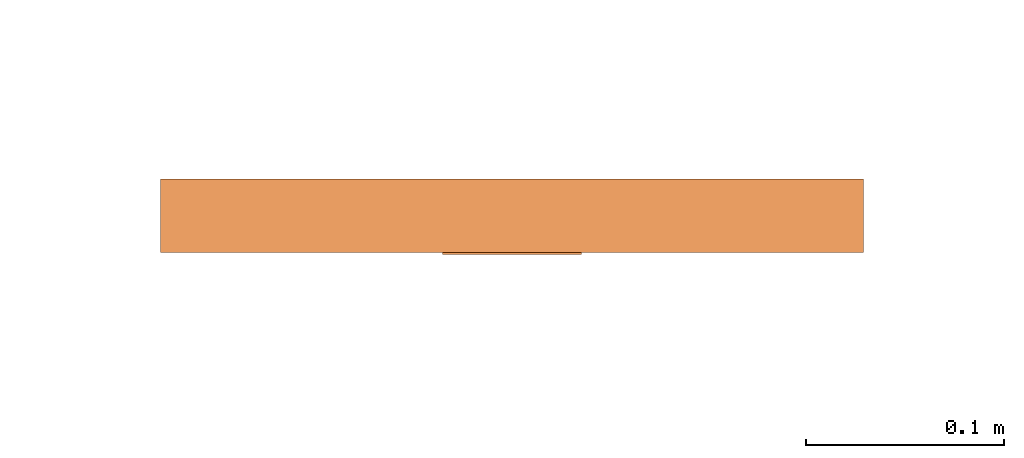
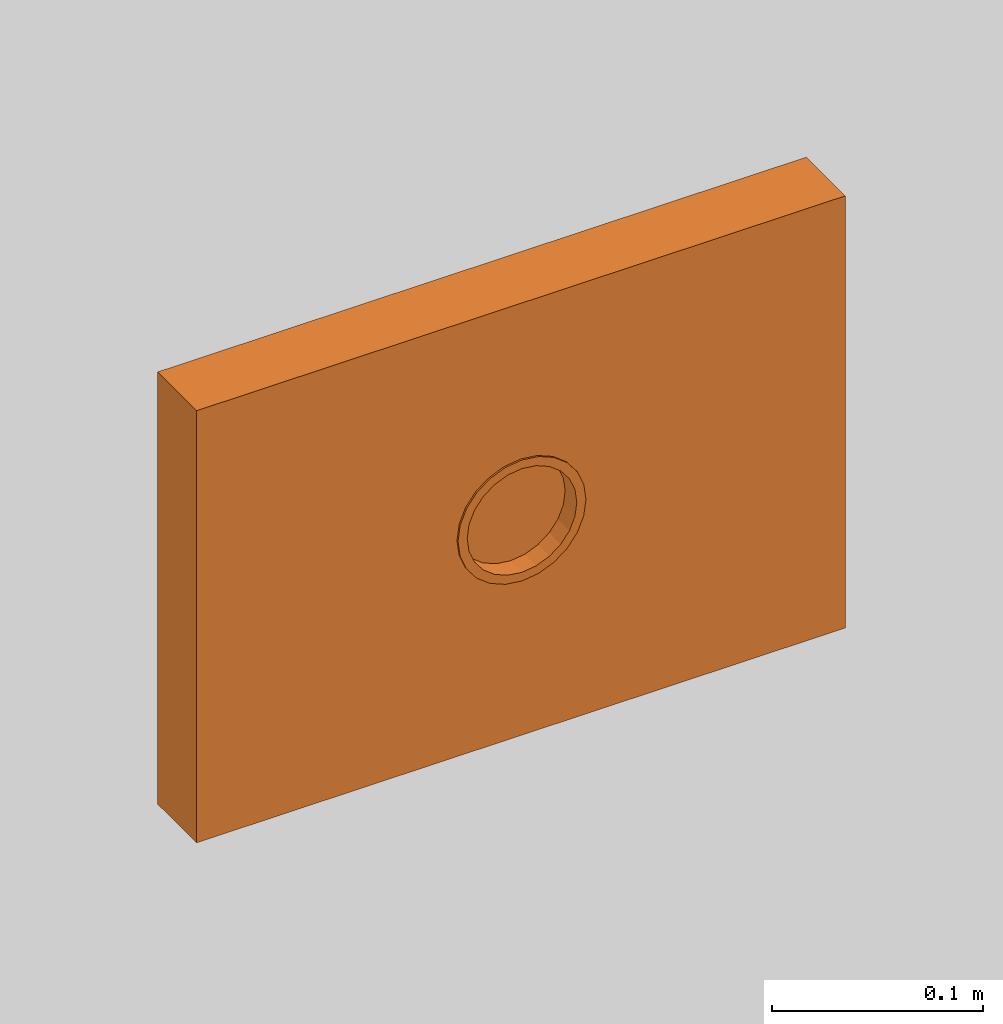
# One storey, part 88 of 197: 1 proxy.
"""IFC2X3 building model written with IfcOpenShell, lengths in metres."""

from ifc_helpers import new_model, entity, si_unit, converted_unit, direction, frame, origin, place, context, subcontext, project, spatial, faceted_brep, source, transform, mapped, material, material_list, type_object, type_shapes, element, save


model = new_model("IFC2X3")

# Units and contexts
model_context = context("Model", 3, precision=1e-05, world=origin(), true_north=direction((6.123031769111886e-17, 1.0)))
body_context = subcontext(model_context, "Body", "Model", "MODEL_VIEW")
ifc_project = project(units=[si_unit("LENGTHUNIT", "METRE"), converted_unit("PLANEANGLEUNIT", "DEGREE", entity("IfcPlaneAngleMeasure", 0.017453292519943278), si_unit("PLANEANGLEUNIT", "RADIAN"), dimensions=[0, 0, 0, 0, 0, 0, 0]), si_unit("AREAUNIT", "SQUARE_METRE")], contexts=[model_context])

# Site, building, storey
site_placement = place(None, origin())
site = spatial("IfcSite", under=ifc_project, at=site_placement, Name="Default", CompositionType="ELEMENT")
building_placement = place(site_placement, origin())
building = spatial("IfcBuilding", under=site, at=building_placement, CompositionType="ELEMENT")
storey_placement = place(building_placement, origin())
storey = spatial("IfcBuildingStorey", under=building, at=storey_placement, Name="Niveau 0", CompositionType="ELEMENT", Elevation=0.0)

# Proxy
ifc_material_1 = material(Name="BETCE-ANNEAU-CHROME")
ifc_material_2 = material(Name="BETCE-TABLEAU-BLANC")
ifc_material_list = material_list([ifc_material_1, ifc_material_2])
building_element_proxy_type = type_object("IfcBuildingElementProxyType", Name="Coffret mural 18 modules avec porte:18M-1R", PredefinedType="NOTDEFINED", material=ifc_material_list)
shared_shape = source(origin(), body_context, "Body", "Brep", [
    faceted_brep([(0.015000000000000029, -0.14149999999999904, -0.900980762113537), (0.017499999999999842, -0.14149999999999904, -0.9053108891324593), (0.021124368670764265, -0.14149999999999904, -0.9025298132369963), (0.011382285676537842, -0.14149999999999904, -0.9024792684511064), (0.024748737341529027, -0.14149999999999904, -0.8997487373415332), (0.018106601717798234, -0.14149999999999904, -0.8985969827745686), (0.007764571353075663, -0.14149999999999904, -0.9039777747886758), (0.01327933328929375, -0.14149999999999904, -0.9070591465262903), (0.009058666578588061, -0.14149999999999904, -0.9088074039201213), (0.0038822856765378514, -0.14149999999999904, -0.9044888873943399), (0.0, -0.14149999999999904, -0.9050000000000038), (0.004529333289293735, -0.14149999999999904, -0.9094037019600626), (0.0, -0.14149999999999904, -0.9100000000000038), (-0.0038822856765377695, -0.14149999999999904, -0.9044888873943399), (-0.007764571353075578, -0.14149999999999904, -0.9039777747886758), (-0.00452933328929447, -0.14149999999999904, -0.9094037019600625), (-0.009058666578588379, -0.14149999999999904, -0.908807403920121), (-0.011382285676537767, -0.14149999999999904, -0.9024792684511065), (-0.014999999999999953, -0.14149999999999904, -0.900980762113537), (-0.013279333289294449, -0.14149999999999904, -0.90705914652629), (-0.01750000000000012, -0.14149999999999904, -0.9053108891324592), (-0.018106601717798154, -0.14149999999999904, -0.8985969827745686), (-0.021213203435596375, -0.14149999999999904, -0.8962132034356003), (-0.02112436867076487, -0.14149999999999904, -0.9025298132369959), (-0.024748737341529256, -0.14149999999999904, -0.8997487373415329), (-0.023596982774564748, -0.14149999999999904, -0.8931066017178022), (-0.02598076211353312, -0.14149999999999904, -0.8900000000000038), (-0.027529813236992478, -0.14149999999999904, -0.8961243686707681), (-0.030310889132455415, -0.14149999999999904, -0.8925000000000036), (-0.02747926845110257, -0.14149999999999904, -0.8863822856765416), (-0.028977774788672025, -0.14149999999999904, -0.8827645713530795), (-0.03205914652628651, -0.14149999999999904, -0.8882793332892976), (-0.033807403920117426, -0.14149999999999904, -0.8840586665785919), (-0.029488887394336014, -0.14149999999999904, -0.8788822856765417), (-0.029999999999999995, -0.14149999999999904, -0.8750000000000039), (-0.03415980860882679, -0.14149999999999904, -0.8813818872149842), (-0.035, -0.14149999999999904, -0.8750000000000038), (-0.029611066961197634, -0.14149999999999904, -0.8720457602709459), (-0.028977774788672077, -0.14149999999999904, -0.8672354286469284), (-0.03440370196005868, -0.14149999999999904, -0.8704706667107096), (-0.03380740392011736, -0.14149999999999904, -0.8659413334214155), (-0.02747926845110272, -0.14149999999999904, -0.8636177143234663), (-0.025980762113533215, -0.14149999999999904, -0.8600000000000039), (-0.03205914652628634, -0.14149999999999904, -0.8617206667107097), (-0.030310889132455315, -0.14149999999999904, -0.8575000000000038), (-0.027529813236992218, -0.14149999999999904, -0.8538756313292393), (-0.02474873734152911, -0.14149999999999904, -0.8502512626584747), (-0.023596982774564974, -0.14149999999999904, -0.8568933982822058), (-0.021213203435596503, -0.14149999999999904, -0.8537867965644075), (-0.02112436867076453, -0.14149999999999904, -0.8474701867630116), (-0.017499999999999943, -0.14149999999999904, -0.8446891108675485), (-0.018106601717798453, -0.14149999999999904, -0.8514030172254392), (-0.015000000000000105, -0.14149999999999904, -0.8490192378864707), (-0.013279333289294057, -0.14149999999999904, -0.8429408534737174), (-0.009058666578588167, -0.14149999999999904, -0.8411925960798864), (-0.011382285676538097, -0.14149999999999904, -0.8475207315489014), (-0.007764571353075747, -0.14149999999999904, -0.8460222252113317), (-0.0045293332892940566, -0.14149999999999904, -0.8405962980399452), (0.0, -0.14149999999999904, -0.8400000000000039), (-0.003882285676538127, -0.14149999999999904, -0.8455111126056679), (0.0, -0.14149999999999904, -0.8450000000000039), (0.00452933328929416, -0.14149999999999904, -0.8405962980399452), (0.009058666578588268, -0.14149999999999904, -0.8411925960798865), (0.0038822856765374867, -0.14149999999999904, -0.8455111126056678), (0.007764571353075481, -0.14149999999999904, -0.8460222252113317), (0.013279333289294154, -0.14149999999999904, -0.8429408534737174), (0.017500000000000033, -0.14149999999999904, -0.8446891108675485), (0.011382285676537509, -0.14149999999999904, -0.8475207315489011), (0.01499999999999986, -0.14149999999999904, -0.8490192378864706), (0.02112436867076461, -0.14149999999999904, -0.8474701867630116), (0.024748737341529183, -0.14149999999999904, -0.8502512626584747), (0.01810660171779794, -0.14149999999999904, -0.8514030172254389), (0.02121320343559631, -0.14149999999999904, -0.8537867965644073), (0.027529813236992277, -0.14149999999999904, -0.8538756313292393), (0.030310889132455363, -0.14149999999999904, -0.8575000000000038), (0.02359698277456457, -0.14149999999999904, -0.8568933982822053), (0.025980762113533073, -0.14149999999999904, -0.8600000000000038), (0.03205914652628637, -0.14149999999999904, -0.8617206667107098), (0.03380740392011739, -0.14149999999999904, -0.8659413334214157), (0.02747926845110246, -0.14149999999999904, -0.8636177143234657), (0.028977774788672, -0.14149999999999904, -0.8672354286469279), (0.03415980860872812, -0.14149999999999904, -0.8686181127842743), (0.035, -0.14149999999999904, -0.8750000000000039), (0.029488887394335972, -0.14149999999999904, -0.8711177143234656), (0.03, -0.14149999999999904, -0.8750000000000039), (0.03440370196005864, -0.14149999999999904, -0.8795293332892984), (0.03380740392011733, -0.14149999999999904, -0.8840586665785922), (0.02961106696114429, -0.14149999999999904, -0.8779542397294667), (0.028977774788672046, -0.14149999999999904, -0.8827645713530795), (0.03205914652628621, -0.14149999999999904, -0.8882793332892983), (0.03031088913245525, -0.14149999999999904, -0.892500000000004), (0.027479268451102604, -0.14149999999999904, -0.8863822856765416), (0.025980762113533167, -0.14149999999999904, -0.8900000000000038), (0.023596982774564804, -0.14149999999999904, -0.893106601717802), (0.021213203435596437, -0.14149999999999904, -0.8962132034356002), (0.027529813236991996, -0.14149999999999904, -0.8961243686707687), (0.01499999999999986, -0.14049999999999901, -0.8490192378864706), (0.017500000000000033, -0.14049999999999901, -0.8446891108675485), (0.02112436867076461, -0.14049999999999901, -0.8474701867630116), (0.011382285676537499, -0.14049999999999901, -0.8475207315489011), (0.024748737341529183, -0.14049999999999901, -0.8502512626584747), (0.018106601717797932, -0.14049999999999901, -0.8514030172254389), (0.007764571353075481, -0.14049999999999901, -0.8460222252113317), (0.013279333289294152, -0.14049999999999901, -0.8429408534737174), (0.009058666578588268, -0.14049999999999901, -0.8411925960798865), (0.0038822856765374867, -0.14049999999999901, -0.8455111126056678), (0.0, -0.14049999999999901, -0.8450000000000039), (0.004529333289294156, -0.14049999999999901, -0.8405962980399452), (0.0, -0.14049999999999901, -0.8400000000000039), (-0.0038822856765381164, -0.14049999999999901, -0.8455111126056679), (-0.007764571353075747, -0.14049999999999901, -0.8460222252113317), (-0.004529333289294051, -0.14049999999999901, -0.8405962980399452), (-0.009058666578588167, -0.14049999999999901, -0.8411925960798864), (-0.011382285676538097, -0.14049999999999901, -0.8475207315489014), (-0.015000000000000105, -0.14049999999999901, -0.8490192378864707), (-0.013279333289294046, -0.14049999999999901, -0.8429408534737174), (-0.017499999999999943, -0.14049999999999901, -0.8446891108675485), (-0.018106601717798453, -0.14049999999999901, -0.8514030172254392), (-0.021213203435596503, -0.14049999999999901, -0.8537867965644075), (-0.02112436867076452, -0.14049999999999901, -0.8474701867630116), (-0.02474873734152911, -0.14049999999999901, -0.8502512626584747), (-0.023596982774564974, -0.14049999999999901, -0.8568933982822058), (-0.025980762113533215, -0.14049999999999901, -0.8600000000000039), (-0.027529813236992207, -0.14049999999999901, -0.8538756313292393), (-0.030310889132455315, -0.14049999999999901, -0.8575000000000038), (-0.027479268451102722, -0.14049999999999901, -0.8636177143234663), (-0.028977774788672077, -0.14049999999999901, -0.8672354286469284), (-0.03205914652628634, -0.14049999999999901, -0.8617206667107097), (-0.03380740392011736, -0.14049999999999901, -0.8659413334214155), (-0.029488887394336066, -0.14049999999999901, -0.8711177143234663), (-0.029999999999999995, -0.14049999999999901, -0.8750000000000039), (-0.03440370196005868, -0.14049999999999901, -0.8704706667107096), (-0.035, -0.14049999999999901, -0.8750000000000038), (-0.029611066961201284, -0.14049999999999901, -0.8779542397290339), (-0.028977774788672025, -0.14049999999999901, -0.8827645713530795), (-0.03440370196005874, -0.14049999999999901, -0.8795293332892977), (-0.033807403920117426, -0.14049999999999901, -0.8840586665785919), (-0.02747926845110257, -0.14049999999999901, -0.8863822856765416), (-0.02598076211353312, -0.14049999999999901, -0.8900000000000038), (-0.03205914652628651, -0.14049999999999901, -0.8882793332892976), (-0.030310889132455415, -0.14049999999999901, -0.8925000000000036), (-0.02752981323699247, -0.14049999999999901, -0.8961243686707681), (-0.024748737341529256, -0.14049999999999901, -0.8997487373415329), (-0.023596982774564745, -0.14049999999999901, -0.8931066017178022), (-0.021213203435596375, -0.14049999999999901, -0.8962132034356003), (-0.021124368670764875, -0.14049999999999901, -0.9025298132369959), (-0.01750000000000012, -0.14049999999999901, -0.9053108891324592), (-0.018106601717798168, -0.14049999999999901, -0.8985969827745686), (-0.014999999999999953, -0.14049999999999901, -0.900980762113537), (-0.013279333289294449, -0.14049999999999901, -0.90705914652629), (-0.009058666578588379, -0.14049999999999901, -0.908807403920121), (-0.011382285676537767, -0.14049999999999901, -0.9024792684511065), (-0.007764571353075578, -0.14049999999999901, -0.9039777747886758), (-0.00452933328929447, -0.14049999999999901, -0.9094037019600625), (0.0, -0.14049999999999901, -0.9100000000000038), (-0.003882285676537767, -0.14049999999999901, -0.9044888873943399), (0.0, -0.14049999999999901, -0.9050000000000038), (0.004529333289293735, -0.14049999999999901, -0.9094037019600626), (0.009058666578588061, -0.14049999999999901, -0.9088074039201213), (0.003882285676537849, -0.14049999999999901, -0.9044888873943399), (0.007764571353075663, -0.14049999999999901, -0.9039777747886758), (0.01327933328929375, -0.14049999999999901, -0.9070591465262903), (0.017499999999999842, -0.14049999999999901, -0.9053108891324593), (0.011382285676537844, -0.14049999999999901, -0.9024792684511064), (0.015000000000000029, -0.14049999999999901, -0.900980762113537), (0.021124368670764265, -0.14049999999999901, -0.9025298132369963), (0.024748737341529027, -0.14049999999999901, -0.8997487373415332), (0.018106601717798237, -0.14049999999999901, -0.8985969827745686), (0.021213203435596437, -0.14049999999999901, -0.8962132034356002), (0.027529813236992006, -0.14049999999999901, -0.8961243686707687), (0.03031088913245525, -0.14049999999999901, -0.892500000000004), (0.023596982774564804, -0.14049999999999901, -0.893106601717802), (0.025980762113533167, -0.14049999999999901, -0.8900000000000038), (0.03205914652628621, -0.14049999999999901, -0.8882793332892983), (0.03380740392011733, -0.14049999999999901, -0.8840586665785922), (0.027479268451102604, -0.14049999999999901, -0.8863822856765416), (0.028977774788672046, -0.14049999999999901, -0.8827645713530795), (0.03440370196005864, -0.14049999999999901, -0.8795293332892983), (0.035, -0.14049999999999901, -0.875000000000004), (0.029488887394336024, -0.14049999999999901, -0.8788822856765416), (0.03, -0.14049999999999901, -0.8750000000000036), (0.034403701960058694, -0.14049999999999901, -0.8704706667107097), (0.03380740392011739, -0.14049999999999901, -0.8659413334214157), (0.02961106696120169, -0.14049999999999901, -0.872045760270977), (0.028977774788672, -0.14049999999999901, -0.8672354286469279), (0.03205914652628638, -0.14049999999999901, -0.8617206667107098), (0.030310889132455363, -0.14049999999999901, -0.8575000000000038), (0.02747926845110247, -0.14049999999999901, -0.8636177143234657), (0.025980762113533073, -0.14049999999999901, -0.8600000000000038), (0.023596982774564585, -0.14049999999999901, -0.8568933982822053), (0.02121320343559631, -0.14049999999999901, -0.8537867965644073), (0.027529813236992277, -0.14049999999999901, -0.8538756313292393)], [[[0, 1, 2]], [[1, 0, 3]], [[0, 2, 4]], [[4, 5, 0]], [[1, 3, 6]], [[6, 7, 1]], [[6, 8, 7]], [[8, 6, 9]], [[8, 9, 10]], [[10, 11, 8]], [[10, 12, 11]], [[12, 10, 13]], [[12, 13, 14]], [[14, 15, 12]], [[14, 16, 15]], [[16, 14, 17]], [[16, 17, 18]], [[18, 19, 16]], [[18, 20, 19]], [[20, 18, 21]], [[20, 21, 22]], [[22, 23, 20]], [[22, 24, 23]], [[24, 22, 25]], [[24, 25, 26]], [[26, 27, 24]], [[26, 28, 27]], [[28, 26, 29]], [[28, 29, 30]], [[30, 31, 28]], [[30, 32, 31]], [[32, 30, 33]], [[32, 33, 34]], [[34, 35, 32]], [[34, 36, 35]], [[36, 34, 37]], [[36, 37, 38]], [[38, 39, 36]], [[38, 40, 39]], [[40, 38, 41]], [[40, 41, 42]], [[42, 43, 40]], [[42, 44, 43]], [[42, 45, 44]], [[42, 46, 45]], [[46, 42, 47]], [[46, 47, 48]], [[48, 49, 46]], [[48, 50, 49]], [[50, 48, 51]], [[50, 51, 52]], [[52, 53, 50]], [[52, 54, 53]], [[54, 52, 55]], [[54, 55, 56]], [[56, 57, 54]], [[56, 58, 57]], [[58, 56, 59]], [[58, 59, 60]], [[60, 61, 58]], [[60, 62, 61]], [[62, 60, 63]], [[62, 63, 64]], [[64, 65, 62]], [[64, 66, 65]], [[66, 64, 67]], [[66, 67, 68]], [[68, 69, 66]], [[68, 70, 69]], [[70, 68, 71]], [[70, 71, 72]], [[72, 73, 70]], [[72, 74, 73]], [[74, 72, 75]], [[74, 75, 76]], [[76, 77, 74]], [[76, 78, 77]], [[78, 76, 79]], [[78, 79, 80]], [[80, 81, 78]], [[80, 82, 81]], [[82, 80, 83]], [[82, 83, 84]], [[84, 85, 82]], [[84, 86, 85]], [[86, 84, 87]], [[86, 87, 88]], [[88, 89, 86]], [[88, 90, 89]], [[90, 88, 91]], [[90, 91, 92]], [[90, 92, 93]], [[90, 93, 94]], [[4, 94, 5]], [[94, 4, 95]], [[94, 95, 90]], [[96, 97, 98]], [[97, 96, 99]], [[96, 98, 100]], [[100, 101, 96]], [[97, 99, 102]], [[102, 103, 97]], [[102, 104, 103]], [[104, 102, 105]], [[104, 105, 106]], [[106, 107, 104]], [[106, 108, 107]], [[108, 106, 109]], [[108, 109, 110]], [[110, 111, 108]], [[110, 112, 111]], [[112, 110, 113]], [[112, 113, 114]], [[114, 115, 112]], [[114, 116, 115]], [[116, 114, 117]], [[116, 117, 118]], [[118, 119, 116]], [[118, 120, 119]], [[120, 118, 121]], [[120, 121, 122]], [[122, 123, 120]], [[122, 124, 123]], [[124, 122, 125]], [[124, 125, 126]], [[126, 127, 124]], [[126, 128, 127]], [[128, 126, 129]], [[128, 129, 130]], [[130, 131, 128]], [[130, 132, 131]], [[132, 130, 133]], [[132, 133, 134]], [[134, 135, 132]], [[134, 136, 135]], [[136, 134, 137]], [[136, 137, 138]], [[138, 139, 136]], [[138, 140, 139]], [[138, 141, 140]], [[138, 142, 141]], [[142, 138, 143]], [[142, 143, 144]], [[144, 145, 142]], [[144, 146, 145]], [[146, 144, 147]], [[146, 147, 148]], [[148, 149, 146]], [[148, 150, 149]], [[150, 148, 151]], [[150, 151, 152]], [[152, 153, 150]], [[152, 154, 153]], [[154, 152, 155]], [[154, 155, 156]], [[156, 157, 154]], [[156, 158, 157]], [[158, 156, 159]], [[158, 159, 160]], [[160, 161, 158]], [[160, 162, 161]], [[162, 160, 163]], [[162, 163, 164]], [[164, 165, 162]], [[164, 166, 165]], [[166, 164, 167]], [[166, 167, 168]], [[168, 169, 166]], [[168, 170, 169]], [[170, 168, 171]], [[170, 171, 172]], [[172, 173, 170]], [[172, 174, 173]], [[174, 172, 175]], [[174, 175, 176]], [[176, 177, 174]], [[176, 178, 177]], [[178, 176, 179]], [[178, 179, 180]], [[180, 181, 178]], [[180, 182, 181]], [[182, 180, 183]], [[182, 183, 184]], [[184, 185, 182]], [[184, 186, 185]], [[186, 184, 187]], [[186, 187, 188]], [[186, 188, 189]], [[186, 189, 190]], [[100, 190, 101]], [[190, 100, 191]], [[190, 191, 186]], [[136, 32, 35, 36, 132, 135]], [[85, 86, 174, 177, 178, 82]], [[136, 139, 140, 28, 31, 32]], [[142, 145, 146, 20, 23, 24]], [[173, 174, 86, 89, 90, 170]], [[140, 141, 142, 24, 27, 28]], [[146, 149, 150, 16, 19, 20]], [[12, 15, 16, 150, 153, 154]], [[154, 157, 158, 8, 11, 12]], [[2, 1, 162, 165, 166, 4]], [[169, 170, 90, 95, 4, 166]], [[158, 161, 162, 1, 7, 8]], [[182, 78, 81, 82, 178, 181]], [[39, 40, 128, 131, 132, 36]], [[182, 185, 186, 74, 77, 78]], [[100, 98, 97, 66, 69, 70]], [[127, 128, 40, 43, 44, 124]], [[186, 191, 100, 70, 73, 74]], [[97, 103, 104, 62, 65, 66]], [[58, 61, 62, 104, 107, 108]], [[108, 111, 112, 54, 57, 58]], [[49, 50, 116, 119, 120, 46]], [[123, 124, 44, 45, 46, 120]], [[112, 115, 116, 50, 53, 54]], [[129, 126, 38, 37, 34, 130]], [[125, 122, 42, 41, 38, 126]], [[51, 48, 118, 117, 114, 52]], [[63, 60, 106, 105, 102, 64]], [[183, 180, 84, 83, 80, 184]], [[48, 47, 42, 122, 121, 118]], [[55, 52, 114, 113, 110, 56]], [[59, 56, 110, 109, 106, 60]], [[99, 96, 68, 67, 64, 102]], [[189, 188, 76, 75, 72, 190]], [[187, 184, 80, 79, 76, 188]], [[101, 190, 72, 71, 68, 96]], [[179, 176, 88, 87, 84, 180]], [[175, 172, 92, 91, 88, 176]], [[5, 94, 168, 167, 164, 0]], [[13, 10, 156, 155, 152, 14]], [[133, 130, 34, 33, 30, 134]], [[94, 93, 92, 172, 171, 168]], [[3, 0, 164, 163, 160, 6]], [[9, 6, 160, 159, 156, 10]], [[151, 148, 18, 17, 14, 152]], [[143, 138, 26, 25, 22, 144]], [[137, 134, 30, 29, 26, 138]], [[147, 144, 22, 21, 18, 148]]]),
    faceted_brep([(0.17750000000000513, -0.14049999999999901, -0.7500000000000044), (0.02598076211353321, -0.14049999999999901, -0.8600000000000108), (0.028977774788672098, -0.14049999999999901, -0.8672354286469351), (0.021213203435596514, -0.14049999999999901, -0.8537867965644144), (0.030000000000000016, -0.14049999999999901, -0.8750000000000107), (0.015000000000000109, -0.14049999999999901, -0.8490192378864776), (0.007764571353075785, -0.14049999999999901, -0.8460222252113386), (0.0, -0.14049999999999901, -0.8450000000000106), (-0.17749999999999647, -0.14049999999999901, -0.7500000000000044), (0.17750000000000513, -0.14049999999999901, -1.0), (-0.007764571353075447, -0.14049999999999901, -0.8460222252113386), (-0.014999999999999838, -0.14049999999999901, -0.8490192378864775), (-0.021213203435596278, -0.14049999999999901, -0.8537867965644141), (-0.02598076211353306, -0.14049999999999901, -0.8600000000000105), (-0.028977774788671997, -0.14049999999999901, -0.8672354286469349), (-0.03, -0.14049999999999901, -0.8750000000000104), (-0.17749999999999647, -0.14049999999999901, -1.0), (-0.028977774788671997, -0.14049999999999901, -0.8827645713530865), (-0.025980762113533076, -0.14049999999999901, -0.8900000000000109), (-0.021213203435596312, -0.14049999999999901, -0.8962132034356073), (-0.014999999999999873, -0.14049999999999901, -0.9009807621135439), (-0.007764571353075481, -0.14049999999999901, -0.9039777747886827), (0.0, -0.14049999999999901, -0.9050000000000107), (0.028977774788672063, -0.14049999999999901, -0.8827645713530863), (0.02598076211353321, -0.14049999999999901, -0.8900000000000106), (0.021213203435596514, -0.14049999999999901, -0.896213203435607), (0.015000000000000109, -0.14049999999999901, -0.9009807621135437), (0.007764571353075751, -0.14049999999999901, -0.9039777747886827), (-0.17749999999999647, -0.10349999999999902, -1.0), (-0.17749999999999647, -0.10349999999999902, -0.7500000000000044), (0.17750000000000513, -0.10349999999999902, -0.7500000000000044), (0.17750000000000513, -0.10349999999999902, -1.0), (-0.014999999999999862, -0.1304999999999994, -0.9009807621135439), (-0.007764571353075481, -0.1304999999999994, -0.9039777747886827), (0.0, -0.1304999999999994, -0.9050000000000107), (0.007764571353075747, -0.1304999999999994, -0.9039777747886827), (0.015000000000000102, -0.1304999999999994, -0.9009807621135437), (0.021213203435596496, -0.1304999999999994, -0.896213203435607), (0.02598076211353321, -0.1304999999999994, -0.8900000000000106), (0.02897777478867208, -0.1304999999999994, -0.8827645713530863), (0.03, -0.1304999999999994, -0.8750000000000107), (0.02897777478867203, -0.1304999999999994, -0.867235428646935), (0.025980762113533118, -0.1304999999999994, -0.8600000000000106), (0.02121320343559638, -0.1304999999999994, -0.8537867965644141), (0.01499999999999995, -0.1304999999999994, -0.8490192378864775), (0.007764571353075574, -0.1304999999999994, -0.8460222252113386), (0.0, -0.1304999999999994, -0.8450000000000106), (-0.007764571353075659, -0.1304999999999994, -0.8460222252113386), (-0.015000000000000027, -0.1304999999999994, -0.8490192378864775), (-0.021213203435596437, -0.1304999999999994, -0.8537867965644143), (-0.025980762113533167, -0.1304999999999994, -0.8600000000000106), (-0.028977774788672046, -0.1304999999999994, -0.867235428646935), (-0.03, -0.1304999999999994, -0.8750000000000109), (-0.028977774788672, -0.1304999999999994, -0.8827645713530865), (-0.025980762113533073, -0.1304999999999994, -0.8900000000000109), (-0.02121320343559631, -0.1304999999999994, -0.8962132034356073)], [[[0, 1, 2]], [[1, 0, 3]], [[0, 2, 4]], [[5, 3, 0]], [[6, 5, 0]], [[7, 6, 0]], [[0, 8, 7]], [[4, 9, 0]], [[10, 7, 8]], [[11, 10, 8]], [[12, 11, 8]], [[8, 13, 12]], [[13, 8, 14]], [[15, 14, 8]], [[8, 16, 15]], [[17, 15, 16]], [[18, 17, 16]], [[16, 19, 18]], [[19, 16, 20]], [[21, 20, 16]], [[22, 21, 16]], [[22, 16, 9]], [[9, 4, 23]], [[9, 23, 24]], [[24, 25, 9]], [[25, 26, 9]], [[26, 27, 9]], [[9, 27, 22]], [[28, 29, 30, 31]], [[8, 0, 30, 29]], [[16, 8, 29, 28]], [[9, 16, 28, 31]], [[0, 9, 31, 30]], [[32, 33, 34, 35, 36, 37, 38, 39, 40, 41, 42, 43, 44, 45, 46, 47, 48, 49, 50, 51, 52, 53, 54, 55]], [[38, 24, 23, 39]], [[39, 23, 4, 40]], [[35, 27, 26, 36]], [[36, 26, 25, 37]], [[37, 25, 24, 38]], [[27, 35, 34, 22]], [[55, 19, 20, 32]], [[32, 20, 21, 33]], [[52, 15, 17, 53]], [[53, 17, 18, 54]], [[54, 18, 19, 55]], [[22, 34, 33, 21]], [[50, 13, 14, 51]], [[51, 14, 15, 52]], [[47, 10, 11, 48]], [[48, 11, 12, 49]], [[49, 12, 13, 50]], [[10, 47, 46, 7]], [[43, 3, 5, 44]], [[44, 5, 6, 45]], [[40, 4, 2, 41]], [[41, 2, 1, 42]], [[42, 1, 3, 43]], [[7, 46, 45, 6]]]),
])
type_shapes(building_element_proxy_type, [shared_shape])
proxy_placement = place(storey_placement, frame((-539.346595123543, -51.152644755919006, 2.0)))
element("IfcBuildingElementProxy", 1, at=proxy_placement, inside=storey, type_object=building_element_proxy_type, material=ifc_material_list, Name="Coffret mural 18 modules avec porte:18M-1R", ObjectType="Coffret mural 18 modules avec porte:18M-1R", context=body_context, shape_type="MappedRepresentation", body=[
    mapped(shared_shape, transform((0.0, 0.0, 0.0), scale=1.0)),
])

save(model, "model.ifc")
